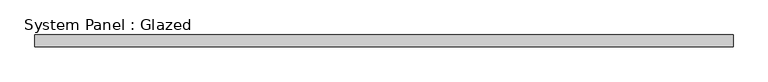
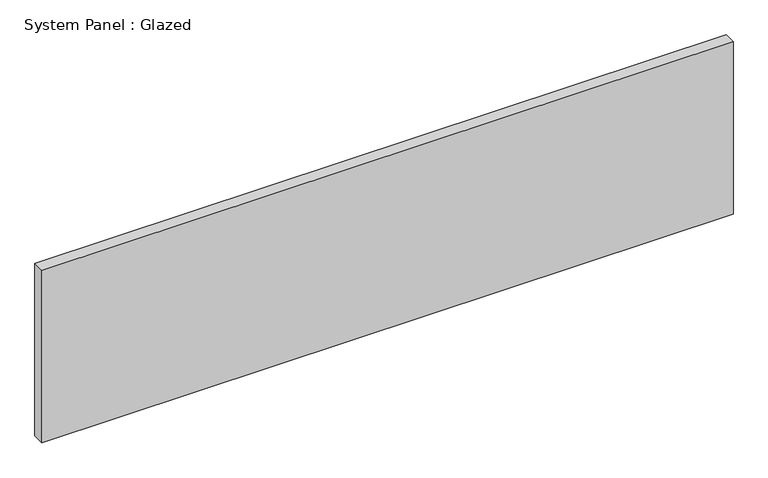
"""IFC4 building model written with IfcOpenShell, lengths in millimetres: plate geometry, System Panel : Glazed."""

import ifcopenshell
import ifcopenshell.guid

model = None  # the IFC model being written
_history = None  # IfcOwnerHistory: only IFC2X3 demands one
_inside = {}  # id of a spatial element -> (the spatial element, [elements in it])
_under = {}  # id of a project, library or spatial element -> (it, [spatial elements below it])
_declared = {}  # id of a project -> (the project, [libraries it declares])
_typed = {}  # id of a type object -> (the type object, [elements of that type])
_made_of = {}  # id of a material, layer set ... -> (it, [elements and type objects made of it])


def new_model(schema):
    """Start an empty IFC model of exactly this schema.

    Asked for "IFC4X3", IfcOpenShell would pick the latest addendum, in which some entities
    have other attributes; the version numbers below select the first issue.
    IFC2X3 requires an IfcOwnerHistory on every rooted entity: one is made here for all.
    """
    global model, _history
    if schema == "IFC4X3":
        model = ifcopenshell.file(schema_version=(4, 3, 0, 0))
    else:
        model = ifcopenshell.file(schema=schema)
    _inside.clear()
    _under.clear()
    _declared.clear()
    _typed.clear()
    _made_of.clear()
    _history = None
    if model.schema == "IFC2X3":
        org = make("IfcOrganization", Name="unknown")
        user = make(
            "IfcPersonAndOrganization",
            ThePerson=make("IfcPerson", FamilyName="unknown"),
            TheOrganization=org,
        )
        app = make(
            "IfcApplication",
            ApplicationDeveloper=org,
            Version="unknown",
            ApplicationFullName="unknown",
            ApplicationIdentifier="unknown",
        )
        _history = make(
            "IfcOwnerHistory",
            OwningUser=user,
            OwningApplication=app,
            ChangeAction="ADDED",
            CreationDate=0,
        )
    return model


def make(cls, **values):
    """One entity of the class cls with the attributes given. An attribute that is None is left unset."""
    return model.create_entity(
        cls, **{name: value for name, value in values.items() if value is not None}
    )


def rooted(cls, **values):
    """An entity with a GlobalId (a new one), such as an element, a storey or a relation."""
    return make(cls, GlobalId=ifcopenshell.guid.new(), OwnerHistory=_history, **values)


def si_unit(unit_type, name, prefix=None):
    """IfcSIUnit, for example si_unit("LENGTHUNIT", "METRE", prefix="MILLI")."""
    return make("IfcSIUnit", UnitType=unit_type, Prefix=prefix, Name=name)


def assignment(units):
    """IfcUnitAssignment: the units of a project."""
    return None if units is None else make("IfcUnitAssignment", Units=units)


def point(xyz):
    """IfcCartesianPoint."""
    return None if xyz is None else make("IfcCartesianPoint", Coordinates=xyz)


def direction(xyz):
    """IfcDirection."""
    return None if xyz is None else make("IfcDirection", DirectionRatios=xyz)


def frame(location, z_axis=None, x_axis=None):
    """IfcAxis2Placement3D, a coordinate frame: its origin and axes. An axis left out is left unset."""
    return make(
        "IfcAxis2Placement3D",
        Location=point(location),
        Axis=direction(z_axis),
        RefDirection=direction(x_axis),
    )


def origin():
    """The frame at (0, 0, 0) with its axes left unset."""
    return frame((0.0, 0.0, 0.0))


def origin_with_axes():
    """The frame at (0, 0, 0) with the z axis (0, 0, 1) and the x axis (1, 0, 0) written out."""
    return frame((0.0, 0.0, 0.0), z_axis=(0.0, 0.0, 1.0), x_axis=(1.0, 0.0, 0.0))


def place(relative_to, where):
    """IfcLocalPlacement: puts the frame where relative to a parent placement (None: the world)."""
    return make(
        "IfcLocalPlacement", PlacementRelTo=relative_to, RelativePlacement=where
    )


def context(
    kind, dimensions, precision=None, world=None, true_north=None, identifier=None
):
    """IfcGeometricRepresentationContext, for example the 3D "Model" context."""
    return make(
        "IfcGeometricRepresentationContext",
        ContextIdentifier=identifier,
        ContextType=kind,
        CoordinateSpaceDimension=dimensions,
        Precision=precision,
        WorldCoordinateSystem=world,
        TrueNorth=true_north,
    )


def project(units=None, contexts=None):
    """IfcProject with its units and contexts."""
    return rooted(
        "IfcProject",
        Name="project",
        RepresentationContexts=contexts,
        UnitsInContext=assignment(units),
    )


def spatial(cls, under=None, at=None, **own):
    """A site, building, storey or space (cls), placed at a placement, below another one or the project."""
    s = rooted(cls, ObjectPlacement=at, **own)
    if under is not None:
        _under.setdefault(under.id(), (under, []))[1].append(s)
    return s


def polyline(points):
    """IfcPolyline through the points."""
    return make("IfcPolyline", Points=[point(p) for p in points])


def outline(outer, holes=None, kind="AREA"):
    """IfcArbitraryClosedProfileDef: a profile drawn as a closed curve; with holes, ...WithVoids."""
    if holes is None:
        return make("IfcArbitraryClosedProfileDef", ProfileType=kind, OuterCurve=outer)
    return make(
        "IfcArbitraryProfileDefWithVoids",
        ProfileType=kind,
        OuterCurve=outer,
        InnerCurves=holes,
    )


def extrude(swept, where, along, depth):
    """IfcExtrudedAreaSolid: the profile swept, set in the frame where, extruded along a direction by depth."""
    return make(
        "IfcExtrudedAreaSolid",
        SweptArea=swept,
        Position=where,
        ExtrudedDirection=direction(along),
        Depth=depth,
    )


def shape(context_of_items, identifier, shape_type, items):
    """IfcShapeRepresentation: the items that make up one representation, for example the "Body"."""
    return make(
        "IfcShapeRepresentation",
        ContextOfItems=context_of_items,
        RepresentationIdentifier=identifier,
        RepresentationType=shape_type,
        Items=items,
    )


def source(mapping_origin, context_of_items, identifier, shape_type, items):
    """IfcRepresentationMap: a shape defined once, which mapped items show again and again."""
    return make(
        "IfcRepresentationMap",
        MappingOrigin=mapping_origin,
        MappedRepresentation=shape(context_of_items, identifier, shape_type, items),
    )


def transform(
    local_origin,
    x_axis=None,
    y_axis=None,
    z_axis=None,
    scale=None,
    scale2=None,
    scale3=None,
    uniform=True,
):
    """IfcCartesianTransformationOperator3D, or its non-uniform kind. x_axis, y_axis, z_axis: its Axis1, 2, 3."""
    if uniform:
        return make(
            "IfcCartesianTransformationOperator3D",
            Axis1=direction(x_axis),
            Axis2=direction(y_axis),
            LocalOrigin=point(local_origin),
            Scale=scale,
            Axis3=direction(z_axis),
        )
    return make(
        "IfcCartesianTransformationOperator3DnonUniform",
        Axis1=direction(x_axis),
        Axis2=direction(y_axis),
        LocalOrigin=point(local_origin),
        Scale=scale,
        Axis3=direction(z_axis),
        Scale2=scale2,
        Scale3=scale3,
    )


def mapped(mapping_source, mapping_target):
    """IfcMappedItem: shows the shape of a source again, moved by a transform."""
    return make(
        "IfcMappedItem", MappingSource=mapping_source, MappingTarget=mapping_target
    )


def made_of(thing, what):
    """Note that an element or type object is made of a material, layer set ...; save() writes the relation."""
    if what is not None:
        _made_of.setdefault(what.id(), (what, []))[1].append(thing)
    return thing


def element(
    cls,
    number,
    at=None,
    inside=None,
    cuts=None,
    type_object=None,
    material=None,
    context=None,
    identifier="Body",
    shape_type=None,
    held_by="IfcProductDefinitionShape",
    body=None,
    shapes=None,
    **own,
):
    """One element of the class cls, such as IfcWall. Its Tag is "e" and its number.

    at: its placement. inside: the storey or other place that contains it. cuts: it is an
    opening in that element (IfcRelVoidsElement). A single representation is given by context,
    identifier, shape_type and body (its items); several are given by shapes. held_by: the class
    of the entity that holds the representations. save() writes the other relations.
    """
    e = rooted(cls, Tag="e%d" % number, ObjectPlacement=at, **own)
    if body is not None:
        shapes = [shape(context, identifier, shape_type, body)]
    if shapes is not None:
        e.Representation = make(held_by, Representations=shapes)
    if inside is not None:
        _inside.setdefault(inside.id(), (inside, []))[1].append(e)
    if cuts is not None:
        rooted(
            "IfcRelVoidsElement", RelatingBuildingElement=cuts, RelatedOpeningElement=e
        )
    if type_object is not None:
        _typed.setdefault(type_object.id(), (type_object, []))[1].append(e)
    return made_of(e, material)


def aggregate(whole, parts):
    """IfcRelAggregates: a whole, such as a stair, and the parts it consists of."""
    return rooted("IfcRelAggregates", RelatingObject=whole, RelatedObjects=parts)


def save(model, path):
    """Write the relations noted so far, then the file.

    IfcRelAggregates (storeys below a building ...), IfcRelContainedInSpatialStructure (elements
    in a storey), IfcRelDefinesByType, IfcRelAssociatesMaterial and IfcRelDeclares: one each for
    every whole, place, type object, material and project.
    """
    for whole, parts in _under.values():
        aggregate(whole, parts)
    for where, things in _inside.values():
        rooted(
            "IfcRelContainedInSpatialStructure",
            RelatedElements=things,
            RelatingStructure=where,
        )
    for kind, things in _typed.values():
        rooted("IfcRelDefinesByType", RelatedObjects=things, RelatingType=kind)
    for what, things in _made_of.values():
        rooted("IfcRelAssociatesMaterial", RelatedObjects=things, RelatingMaterial=what)
    for by, libraries in _declared.values():
        rooted("IfcRelDeclares", RelatingContext=by, RelatedDefinitions=libraries)
    model.write(path)


def system_panel_glazed_50f2205d(model_context):
    return source(origin(), model_context, "Body", "SweptSolid", [
        extrude(outline(polyline([(724.5000001, 24.5), (-724.5000001, 24.5), (-724.5000001, 49.5), (724.5000001, 49.5), (724.5000001, 24.5)])), origin_with_axes(), (0.0, 0.0, 1.0), 382.2),
    ])


if __name__ == "__main__":
    model = new_model("IFC4")
    model_context = context("Model", 3, world=origin())
    ifc_project = project(units=[si_unit("LENGTHUNIT", "METRE", prefix="MILLI")], contexts=[model_context])
    site = spatial("IfcSite", under=ifc_project)
    building = spatial("IfcBuilding", under=site)
    placement = place(None, origin())
    system_panel_glazed_shape = system_panel_glazed_50f2205d(model_context)
    element("IfcPlate", 1, ObjectType="System Panel : Glazed", at=placement, inside=building, context=model_context, shape_type="MappedRepresentation", body=[
        mapped(system_panel_glazed_shape, transform((0.0, 0.0, 0.0), x_axis=(1.0, 0.0, 0.0), y_axis=(0.0, 1.0, 0.0), z_axis=(0.0, 0.0, 1.0))),
    ])
    save(model, "model.ifc")
